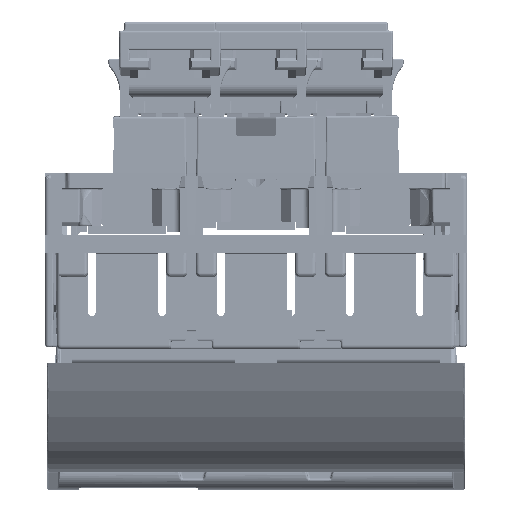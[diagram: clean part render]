
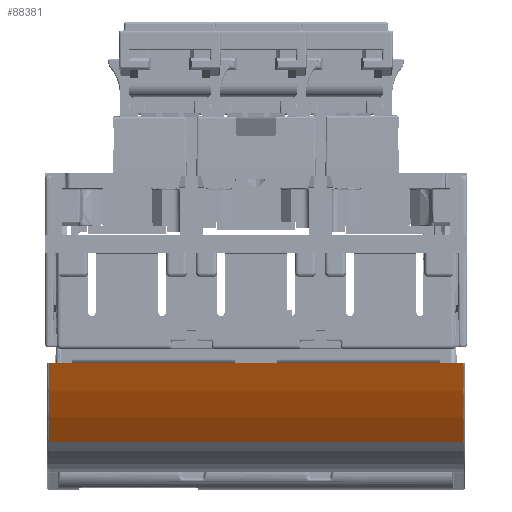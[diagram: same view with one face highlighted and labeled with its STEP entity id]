
A CAD part, left-side view. The second image highlights one B-rep face of the part: STEP entity #88381.
In plain terms, the highlighted cylindrical face has radius 90 mm (diameter 180 mm), a partial arc.
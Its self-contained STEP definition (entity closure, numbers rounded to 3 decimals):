
#52722 = EDGE_CURVE ( 'NONE', #53025, #65386, #114172, .T. ) ;
#53025 = VERTEX_POINT ( 'NONE', #115547 ) ;
#65385 = VERTEX_POINT ( 'NONE', #161237 ) ;
#65386 = VERTEX_POINT ( 'NONE', #161505 ) ;
#65734 = EDGE_CURVE ( 'NONE', #65385, #65386, #163437, .T. ) ;
#69576 = EDGE_CURVE ( 'NONE', #65385, #69751, #181159, .T. ) ;
#69751 = VERTEX_POINT ( 'NONE', #181989 ) ;
#88216 = ORIENTED_EDGE ( 'NONE', *, *, #69576, .T. ) ;
#88228 = ORIENTED_EDGE ( 'NONE', *, *, #88241, .F. ) ;
#88241 = EDGE_CURVE ( 'NONE', #53025, #69751, #245274, .T. ) ;
#88247 = ORIENTED_EDGE ( 'NONE', *, *, #52722, .T. ) ;
#88381 = ADVANCED_FACE ( 'NONE', ( #245755 ), #245754, .T. ) ;
#88388 = EDGE_LOOP ( 'NONE', ( #88400, #88216, #88228, #88247 ) ) ;
#88400 = ORIENTED_EDGE ( 'NONE', *, *, #65734, .F. ) ;
#114170 = AXIS2_PLACEMENT_3D ( 'NONE', #114378, #114375, #114373 ) ;
#114172 = CIRCLE ( 'NONE', #114170, 90. ) ;
#114373 = DIRECTION ( 'NONE',  ( 0., 0., -1. ) ) ;
#114375 = DIRECTION ( 'NONE',  ( 0., 1., 0. ) ) ;
#114378 = CARTESIAN_POINT ( 'NONE',  ( -40.191, -24.105, 31. ) ) ;
#115547 = CARTESIAN_POINT ( 'NONE',  ( -111.208, -24.105, -24.286 ) ) ;
#161237 = CARTESIAN_POINT ( 'NONE',  ( -123.106, 81.895, -4. ) ) ;
#161505 = CARTESIAN_POINT ( 'NONE',  ( -123.106, -24.105, -4. ) ) ;
#163437 = LINE ( 'NONE', #163483, #163481 ) ;
#163478 = DIRECTION ( 'NONE',  ( 0., -1., 0. ) ) ;
#163481 = VECTOR ( 'NONE', #163478, 1000. ) ;
#163483 = CARTESIAN_POINT ( 'NONE',  ( -123.106, 80.645, -4. ) ) ;
#181152 = DIRECTION ( 'NONE',  ( 0., 0., -1. ) ) ;
#181153 = DIRECTION ( 'NONE',  ( 0., -1., 0. ) ) ;
#181154 = CARTESIAN_POINT ( 'NONE',  ( -40.191, 81.895, 31. ) ) ;
#181156 = AXIS2_PLACEMENT_3D ( 'NONE', #181154, #181153, #181152 ) ;
#181159 = CIRCLE ( 'NONE', #181156, 90. ) ;
#181989 = CARTESIAN_POINT ( 'NONE',  ( -111.208, 81.895, -24.286 ) ) ;
#245240 = DIRECTION ( 'NONE',  ( 0., 1., 0. ) ) ;
#245269 = VECTOR ( 'NONE', #245240, 1000. ) ;
#245272 = CARTESIAN_POINT ( 'NONE',  ( -111.208, 82.395, -24.286 ) ) ;
#245274 = LINE ( 'NONE', #245272, #245269 ) ;
#245734 = DIRECTION ( 'NONE',  ( 0., 0., -1. ) ) ;
#245737 = DIRECTION ( 'NONE',  ( 0., -1., 0. ) ) ;
#245740 = CARTESIAN_POINT ( 'NONE',  ( -40.191, 78.895, 31. ) ) ;
#245742 = AXIS2_PLACEMENT_3D ( 'NONE', #245740, #245737, #245734 ) ;
#245754 = CYLINDRICAL_SURFACE ( 'NONE', #245742, 90. ) ;
#245755 = FACE_OUTER_BOUND ( 'NONE', #88388, .T. ) ;
